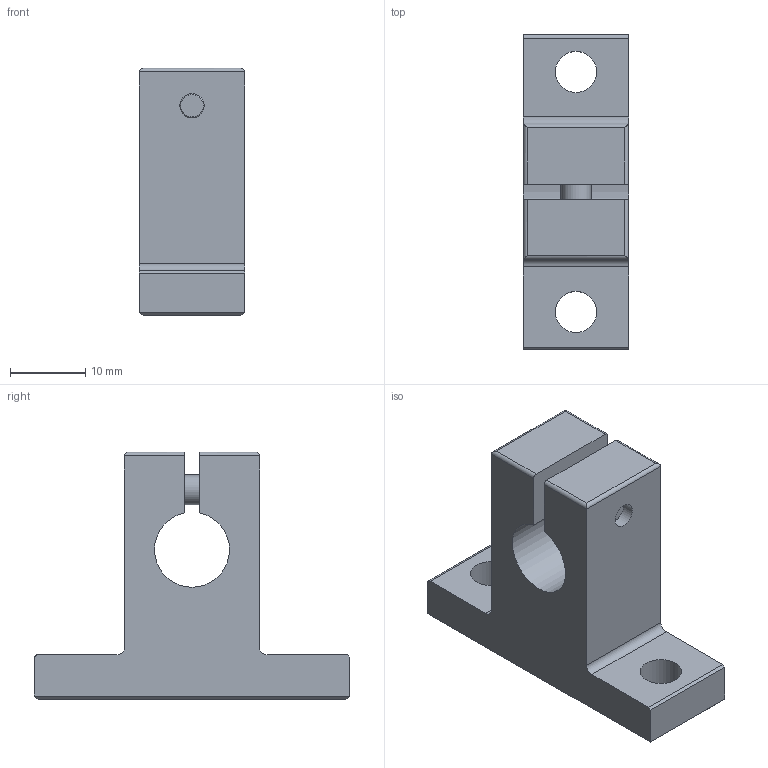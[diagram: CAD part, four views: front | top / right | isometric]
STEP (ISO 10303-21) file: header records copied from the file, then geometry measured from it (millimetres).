
FILE_DESCRIPTION((''),'2;1');
FILE_NAME('D:\製品 (図面)\カタログ用3D\シャフトブロック関連\STEP形式\SBA\SBA10.stp','2010-06-01T16:20:57',('Tsuchiya'),(''),'Autodesk Inventor 10','Autodesk Inventor 10','');
FILE_SCHEMA(('AUTOMOTIVE_DESIGN { 1 0 10303 214 1 1 1 1 }'));
Length unit declared in the file: millimetre
Products named in the file (1): SBA10
Bounding box: 14 x 42 x 33 mm (x, y, z)
Volume: 8620 mm3; surface area: 4378.8 mm2
Topology: 1 solids, 1 shells, 48 faces, 119 edges, 77 vertices
Faces by surface type: plane 27, cylinder 14, bspline 4, cone 2, torus 1
Full cylindrical faces by diameter (mm): 4 x1, 5.5 x2, 7 x1
Entity records: 1392 total; most frequent: CARTESIAN_POINT 291, DIRECTION 220, ORIENTED_EDGE 208, EDGE_CURVE 104, AXIS2_PLACEMENT_3D 77, VERTEX_POINT 72, EDGE_LOOP 68, VECTOR 66
